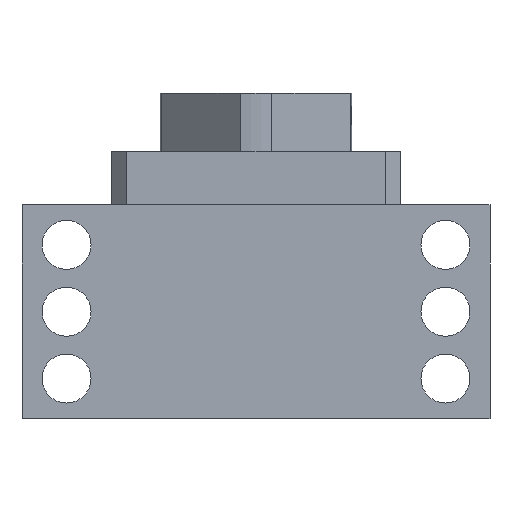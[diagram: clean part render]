
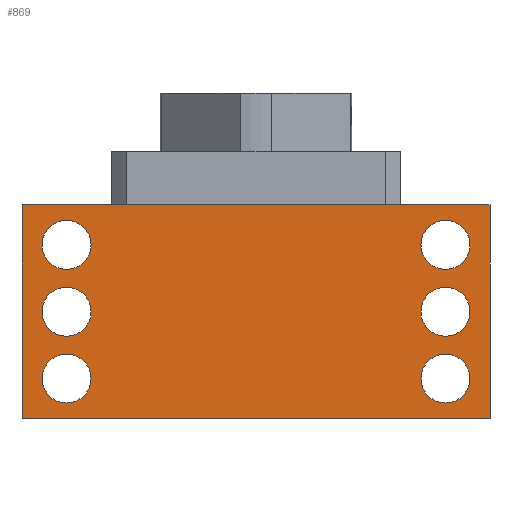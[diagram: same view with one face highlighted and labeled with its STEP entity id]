
A CAD part, front view. The second image highlights one B-rep face of the part: STEP entity #869.
In plain terms, the highlighted planar face has unit normal (0, -1, 0).
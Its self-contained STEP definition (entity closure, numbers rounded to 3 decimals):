
#29=LINE($,#1398,#99);
#73=LINE($,#1546,#143);
#81=LINE($,#1561,#151);
#82=LINE($,#1563,#152);
#99=VECTOR($,#1009,105.);
#143=VECTOR($,#1167,48.);
#151=VECTOR($,#1183,48.);
#152=VECTOR($,#1186,105.);
#257=FACE_BOUND($,#344,.T.);
#258=FACE_BOUND($,#345,.T.);
#259=FACE_BOUND($,#346,.T.);
#260=FACE_BOUND($,#347,.T.);
#261=FACE_BOUND($,#348,.T.);
#262=FACE_BOUND($,#349,.T.);
#263=FACE_BOUND($,#350,.T.);
#344=EDGE_LOOP($,(#763));
#345=EDGE_LOOP($,(#764));
#346=EDGE_LOOP($,(#765));
#347=EDGE_LOOP($,(#766));
#348=EDGE_LOOP($,(#767));
#349=EDGE_LOOP($,(#768));
#350=EDGE_LOOP($,(#769,#770,#771,#772));
#373=CIRCLE($,#931,5.5);
#375=CIRCLE($,#934,5.5);
#377=CIRCLE($,#937,5.5);
#379=CIRCLE($,#940,5.5);
#381=CIRCLE($,#943,5.5);
#383=CIRCLE($,#946,5.5);
#415=VERTEX_POINT($,#1395);
#416=VERTEX_POINT($,#1397);
#451=VERTEX_POINT($,#1515);
#453=VERTEX_POINT($,#1520);
#455=VERTEX_POINT($,#1525);
#457=VERTEX_POINT($,#1530);
#459=VERTEX_POINT($,#1535);
#461=VERTEX_POINT($,#1540);
#463=VERTEX_POINT($,#1545);
#466=VERTEX_POINT($,#1559);
#499=EDGE_CURVE($,#416,#415,#29,.T.);
#553=EDGE_CURVE($,#451,#451,#373,.T.);
#555=EDGE_CURVE($,#453,#453,#375,.T.);
#557=EDGE_CURVE($,#455,#455,#377,.T.);
#559=EDGE_CURVE($,#457,#457,#379,.T.);
#561=EDGE_CURVE($,#459,#459,#381,.T.);
#563=EDGE_CURVE($,#461,#461,#383,.T.);
#565=EDGE_CURVE($,#416,#463,#73,.T.);
#573=EDGE_CURVE($,#415,#466,#81,.T.);
#574=EDGE_CURVE($,#463,#466,#82,.T.);
#763=ORIENTED_EDGE($,*,*,#553,.T.);
#764=ORIENTED_EDGE($,*,*,#555,.T.);
#765=ORIENTED_EDGE($,*,*,#557,.T.);
#766=ORIENTED_EDGE($,*,*,#559,.T.);
#767=ORIENTED_EDGE($,*,*,#561,.T.);
#768=ORIENTED_EDGE($,*,*,#563,.T.);
#769=ORIENTED_EDGE($,*,*,#499,.T.);
#770=ORIENTED_EDGE($,*,*,#573,.T.);
#771=ORIENTED_EDGE($,*,*,#574,.F.);
#772=ORIENTED_EDGE($,*,*,#565,.F.);
#820=PLANE($,#953);
#869=ADVANCED_FACE($,(#257,#258,#259,#260,#261,#262,#263),#820,.T.);
#931=AXIS2_PLACEMENT_3D($,#1516,#1131,#1132);
#934=AXIS2_PLACEMENT_3D($,#1521,#1137,#1138);
#937=AXIS2_PLACEMENT_3D($,#1526,#1143,#1144);
#940=AXIS2_PLACEMENT_3D($,#1531,#1149,#1150);
#943=AXIS2_PLACEMENT_3D($,#1536,#1155,#1156);
#946=AXIS2_PLACEMENT_3D($,#1541,#1161,#1162);
#953=AXIS2_PLACEMENT_3D($,#1562,#1184,#1185);
#1009=DIRECTION($,(1.,0.,0.));
#1131=DIRECTION('center_axis',(0.,1.,0.));
#1132=DIRECTION('ref_axis',(1.,0.,0.));
#1137=DIRECTION('center_axis',(0.,1.,0.));
#1138=DIRECTION('ref_axis',(1.,0.,0.));
#1143=DIRECTION('center_axis',(0.,1.,0.));
#1144=DIRECTION('ref_axis',(1.,0.,0.));
#1149=DIRECTION('center_axis',(0.,1.,0.));
#1150=DIRECTION('ref_axis',(1.,0.,0.));
#1155=DIRECTION('center_axis',(0.,1.,0.));
#1156=DIRECTION('ref_axis',(1.,0.,0.));
#1161=DIRECTION('center_axis',(0.,1.,0.));
#1162=DIRECTION('ref_axis',(1.,0.,0.));
#1167=DIRECTION($,(0.,0.,1.));
#1183=DIRECTION($,(0.,0.,1.));
#1184=DIRECTION('center_axis',(0.,-1.,0.));
#1185=DIRECTION('ref_axis',(1.,0.,0.));
#1186=DIRECTION($,(1.,0.,0.));
#1395=CARTESIAN_POINT('',(105.,0.,0.));
#1397=CARTESIAN_POINT('',(0.,0.,0.));
#1398=CARTESIAN_POINT($,(0.,0.,0.));
#1515=CARTESIAN_POINT('',(89.5,0.,39.));
#1516=CARTESIAN_POINT('Origin',(95.,0.,39.));
#1520=CARTESIAN_POINT('',(4.5,0.,9.));
#1521=CARTESIAN_POINT('Origin',(10.,0.,9.));
#1525=CARTESIAN_POINT('',(4.5,0.,24.));
#1526=CARTESIAN_POINT('Origin',(10.,0.,24.));
#1530=CARTESIAN_POINT('',(89.5,0.,24.));
#1531=CARTESIAN_POINT('Origin',(95.,0.,24.));
#1535=CARTESIAN_POINT('',(89.5,0.,9.));
#1536=CARTESIAN_POINT('Origin',(95.,0.,9.));
#1540=CARTESIAN_POINT('',(4.5,0.,39.));
#1541=CARTESIAN_POINT('Origin',(10.,0.,39.));
#1545=CARTESIAN_POINT('',(0.,0.,48.));
#1546=CARTESIAN_POINT($,(0.,0.,0.));
#1559=CARTESIAN_POINT('',(105.,0.,48.));
#1561=CARTESIAN_POINT($,(105.,0.,0.));
#1562=CARTESIAN_POINT('Origin',(0.,0.,0.));
#1563=CARTESIAN_POINT($,(0.,0.,48.));
